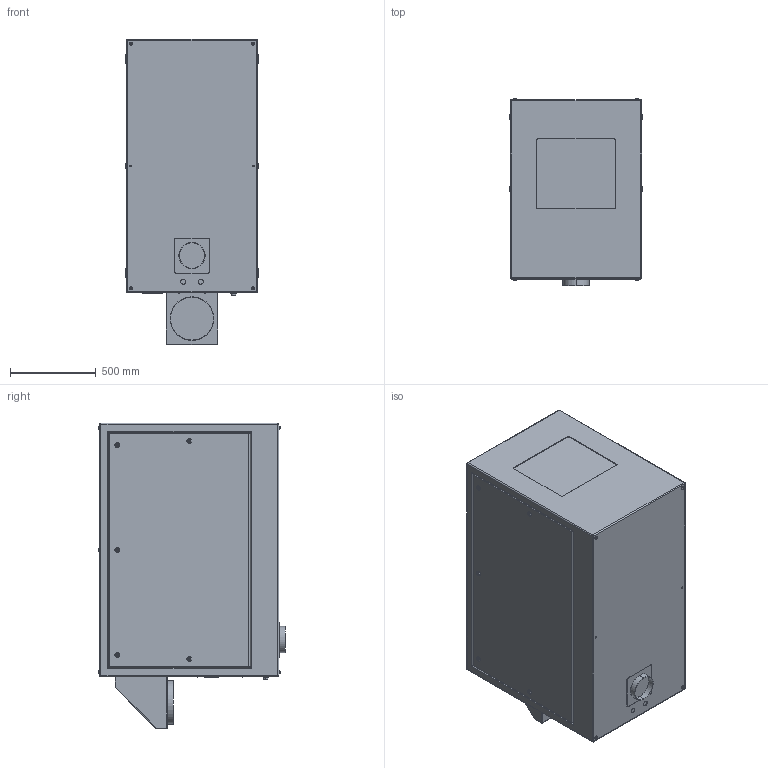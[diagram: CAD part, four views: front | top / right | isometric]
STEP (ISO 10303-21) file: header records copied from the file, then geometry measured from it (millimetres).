
FILE_DESCRIPTION (( 'STEP AP214' ), '1' );
FILE_NAME ('Cyclone 55.324.PAC.xx R08.STEP', '2020-05-28T12:55:38', ( '' ), ( '' ), 'SwSTEP 2.0', 'SolidWorks 2018', '' );
FILE_SCHEMA (( 'AUTOMOTIVE_DESIGN' ));
Length unit declared in the file: inch
Products named in the file (1): Cyclone 55.324.PAC.xx R08
Bounding box: 774.7 x 1086.87 x 1775.46 mm (x, y, z)
Volume: 1183860827.1 mm3; surface area: 9712216.6 mm2
Topology: 1 solids, 3 shells, 546 faces, 1260 edges, 786 vertices
Faces by surface type: plane 273, cylinder 199, torus 52, sphere 14, bspline 8
Entity records: 20554 total; most frequent: CARTESIAN_POINT 3117, DIRECTION 2768, ORIENTED_EDGE 2480, EDGE_CURVE 1240, AXIS2_PLACEMENT_3D 1013, VERTEX_POINT 786, LINE 742, VECTOR 742
